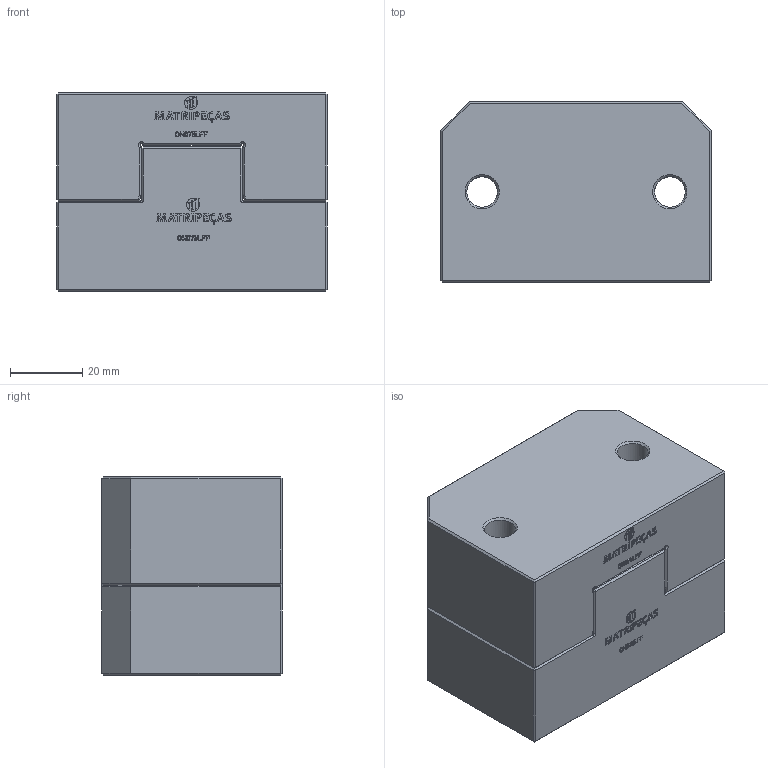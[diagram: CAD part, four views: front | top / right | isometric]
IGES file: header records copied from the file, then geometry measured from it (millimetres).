
Start section: C
Global section: file name: CN075LFF.igs; native system: By Siemens PLM Incorporated; preprocessor: XPlus GENERIC/IGES 18.0.17; author: Author; organization: Title; date: 20240725.134738; units: millimetre
Bounding box: 75 x 50 x 55 mm (x, y, z)
Volume: 191393.1 mm3; surface area: 33802.3 mm2
Topology: 2 solids, 2 shells, 600 faces, 1552 edges, 1010 vertices
Faces by surface type: bspline 600
